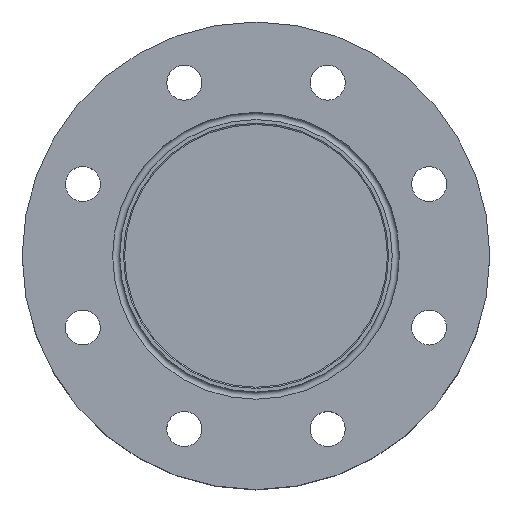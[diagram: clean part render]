
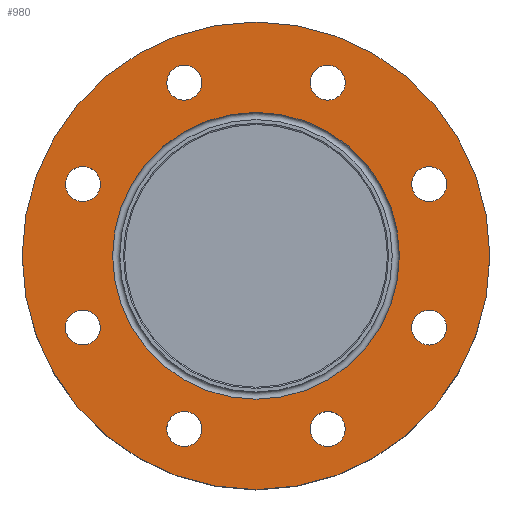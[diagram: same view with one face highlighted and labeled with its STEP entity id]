
A CAD part, top view. The second image highlights one B-rep face of the part: STEP entity #980.
In plain terms, the highlighted planar face has unit normal (0, 0, 1).
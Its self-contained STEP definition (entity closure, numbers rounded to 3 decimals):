
#51=FACE_BOUND('',#306,.T.);
#52=FACE_BOUND('',#307,.T.);
#53=FACE_BOUND('',#308,.T.);
#54=FACE_BOUND('',#309,.T.);
#55=FACE_BOUND('',#310,.T.);
#56=FACE_BOUND('',#311,.T.);
#57=FACE_BOUND('',#312,.T.);
#58=FACE_BOUND('',#313,.T.);
#59=FACE_BOUND('',#314,.T.);
#225=FACE_OUTER_BOUND('',#305,.T.);
#305=EDGE_LOOP('',(#830));
#306=EDGE_LOOP('',(#831));
#307=EDGE_LOOP('',(#832));
#308=EDGE_LOOP('',(#833));
#309=EDGE_LOOP('',(#834));
#310=EDGE_LOOP('',(#835));
#311=EDGE_LOOP('',(#836));
#312=EDGE_LOOP('',(#837));
#313=EDGE_LOOP('',(#838));
#314=EDGE_LOOP('',(#839));
#413=CIRCLE('',#1096,59.5);
#433=CIRCLE('',#1130,97.);
#434=CIRCLE('',#1131,7.25);
#435=CIRCLE('',#1132,7.25);
#436=CIRCLE('',#1133,7.25);
#437=CIRCLE('',#1134,7.25);
#438=CIRCLE('',#1135,7.25);
#439=CIRCLE('',#1136,7.25);
#440=CIRCLE('',#1137,7.25);
#441=CIRCLE('',#1138,7.25);
#503=VERTEX_POINT('',#1642);
#521=VERTEX_POINT('',#1706);
#522=VERTEX_POINT('',#1708);
#523=VERTEX_POINT('',#1710);
#524=VERTEX_POINT('',#1712);
#525=VERTEX_POINT('',#1714);
#526=VERTEX_POINT('',#1716);
#527=VERTEX_POINT('',#1718);
#528=VERTEX_POINT('',#1720);
#529=VERTEX_POINT('',#1722);
#604=EDGE_CURVE('',#503,#503,#413,.T.);
#635=EDGE_CURVE('',#521,#521,#433,.T.);
#636=EDGE_CURVE('',#522,#522,#434,.T.);
#637=EDGE_CURVE('',#523,#523,#435,.T.);
#638=EDGE_CURVE('',#524,#524,#436,.T.);
#639=EDGE_CURVE('',#525,#525,#437,.T.);
#640=EDGE_CURVE('',#526,#526,#438,.T.);
#641=EDGE_CURVE('',#527,#527,#439,.T.);
#642=EDGE_CURVE('',#528,#528,#440,.T.);
#643=EDGE_CURVE('',#529,#529,#441,.T.);
#830=ORIENTED_EDGE('',*,*,#635,.F.);
#831=ORIENTED_EDGE('',*,*,#636,.T.);
#832=ORIENTED_EDGE('',*,*,#637,.T.);
#833=ORIENTED_EDGE('',*,*,#638,.T.);
#834=ORIENTED_EDGE('',*,*,#639,.T.);
#835=ORIENTED_EDGE('',*,*,#640,.T.);
#836=ORIENTED_EDGE('',*,*,#641,.T.);
#837=ORIENTED_EDGE('',*,*,#642,.T.);
#838=ORIENTED_EDGE('',*,*,#604,.T.);
#839=ORIENTED_EDGE('',*,*,#643,.T.);
#946=PLANE('',#1129);
#980=ADVANCED_FACE('',(#225,#51,#52,#53,#54,#55,#56,#57,#58,#59),#946,.T.);
#1096=AXIS2_PLACEMENT_3D('',#1644,#1326,#1327);
#1129=AXIS2_PLACEMENT_3D('',#1705,#1403,#1404);
#1130=AXIS2_PLACEMENT_3D('',#1707,#1405,#1406);
#1131=AXIS2_PLACEMENT_3D('',#1709,#1407,#1408);
#1132=AXIS2_PLACEMENT_3D('',#1711,#1409,#1410);
#1133=AXIS2_PLACEMENT_3D('',#1713,#1411,#1412);
#1134=AXIS2_PLACEMENT_3D('',#1715,#1413,#1414);
#1135=AXIS2_PLACEMENT_3D('',#1717,#1415,#1416);
#1136=AXIS2_PLACEMENT_3D('',#1719,#1417,#1418);
#1137=AXIS2_PLACEMENT_3D('',#1721,#1419,#1420);
#1138=AXIS2_PLACEMENT_3D('',#1723,#1421,#1422);
#1326=DIRECTION('center_axis',(0.,0.,-1.));
#1327=DIRECTION('ref_axis',(1.,0.,0.));
#1403=DIRECTION('center_axis',(0.,0.,1.));
#1404=DIRECTION('ref_axis',(1.,0.,0.));
#1405=DIRECTION('center_axis',(0.,0.,-1.));
#1406=DIRECTION('ref_axis',(1.,0.,0.));
#1407=DIRECTION('center_axis',(0.,0.,-1.));
#1408=DIRECTION('ref_axis',(0.707,0.707,0.));
#1409=DIRECTION('center_axis',(0.,0.,-1.));
#1410=DIRECTION('ref_axis',(0.,1.,0.));
#1411=DIRECTION('center_axis',(0.,0.,-1.));
#1412=DIRECTION('ref_axis',(-0.707,0.707,0.));
#1413=DIRECTION('center_axis',(0.,0.,-1.));
#1414=DIRECTION('ref_axis',(-0.707,-0.707,0.));
#1415=DIRECTION('center_axis',(0.,0.,-1.));
#1416=DIRECTION('ref_axis',(0.,-1.,0.));
#1417=DIRECTION('center_axis',(0.,0.,-1.));
#1418=DIRECTION('ref_axis',(0.707,-0.707,0.));
#1419=DIRECTION('center_axis',(0.,0.,-1.));
#1420=DIRECTION('ref_axis',(1.,0.,0.));
#1421=DIRECTION('center_axis',(0.,0.,-1.));
#1422=DIRECTION('ref_axis',(-1.,0.,0.));
#1642=CARTESIAN_POINT('',(0.,-59.5,0.));
#1644=CARTESIAN_POINT('Origin',(0.,0.,0.));
#1705=CARTESIAN_POINT('Origin',(0.,97.,0.));
#1706=CARTESIAN_POINT('',(0.,-97.,0.));
#1707=CARTESIAN_POINT('Origin',(0.,0.,0.));
#1708=CARTESIAN_POINT('',(66.705,24.627,0.));
#1709=CARTESIAN_POINT('Origin',(71.832,29.754,0.));
#1710=CARTESIAN_POINT('',(29.754,64.582,0.));
#1711=CARTESIAN_POINT('Origin',(29.754,71.832,0.));
#1712=CARTESIAN_POINT('',(-24.627,66.705,0.));
#1713=CARTESIAN_POINT('Origin',(-29.754,71.832,0.));
#1714=CARTESIAN_POINT('',(-66.705,-24.627,0.));
#1715=CARTESIAN_POINT('Origin',(-71.832,-29.754,0.));
#1716=CARTESIAN_POINT('',(-29.754,-64.582,0.));
#1717=CARTESIAN_POINT('Origin',(-29.754,-71.832,0.));
#1718=CARTESIAN_POINT('',(24.627,-66.705,0.));
#1719=CARTESIAN_POINT('Origin',(29.754,-71.832,0.));
#1720=CARTESIAN_POINT('',(64.582,-29.754,0.));
#1721=CARTESIAN_POINT('Origin',(71.832,-29.754,0.));
#1722=CARTESIAN_POINT('',(-64.582,29.754,0.));
#1723=CARTESIAN_POINT('Origin',(-71.832,29.754,0.));
